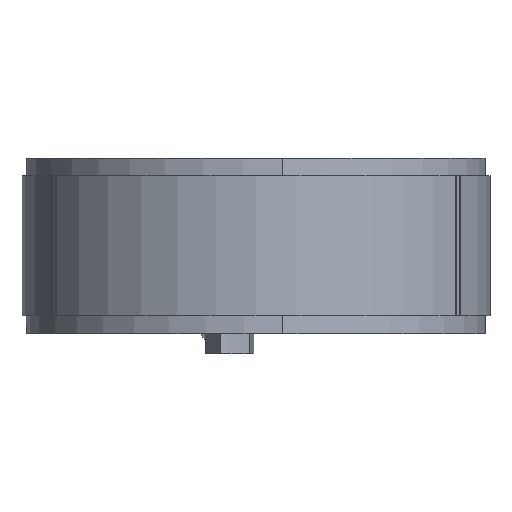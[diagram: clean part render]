
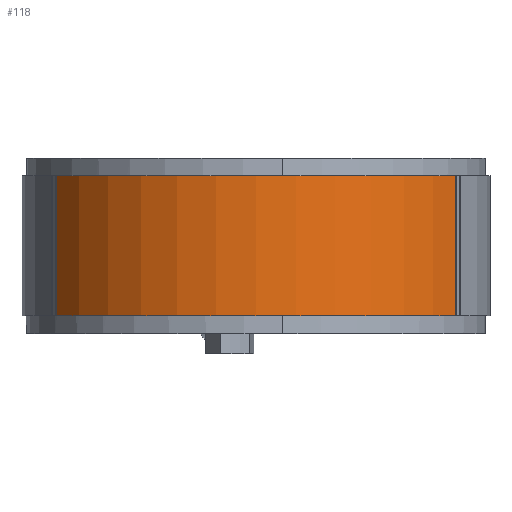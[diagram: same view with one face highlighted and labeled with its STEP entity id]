
A CAD part, front view. The second image highlights one B-rep face of the part: STEP entity #118.
In plain terms, the highlighted cylindrical face has radius 80 mm (diameter 160 mm), a partial arc.
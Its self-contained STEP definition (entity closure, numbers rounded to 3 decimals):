
#118 = ADVANCED_FACE ( 'NONE', ( #2934 ), #567, .T. ) ;
#127 = DIRECTION ( 'NONE',  ( 0., 0., 1. ) ) ;
#256 = ORIENTED_EDGE ( 'NONE', *, *, #1669, .F. ) ;
#371 = ORIENTED_EDGE ( 'NONE', *, *, #645, .T. ) ;
#517 = CARTESIAN_POINT ( 'NONE',  ( -15.414, 73.78, 64.125 ) ) ;
#555 = CIRCLE ( 'NONE', #818, 80. ) ;
#567 = CYLINDRICAL_SURFACE ( 'NONE', #1220, 80. ) ;
#637 = DIRECTION ( 'NONE',  ( 0., 0., 1. ) ) ;
#645 = EDGE_CURVE ( 'NONE', #2745, #3885, #2726, .T. ) ;
#818 = AXIS2_PLACEMENT_3D ( 'NONE', #2212, #637, #2244 ) ;
#957 = DIRECTION ( 'NONE',  ( -1., 0., 0. ) ) ;
#1047 = CARTESIAN_POINT ( 'NONE',  ( 53.093, 32.467, 96.125 ) ) ;
#1107 = DIRECTION ( 'NONE',  ( 0., 0., 1. ) ) ;
#1220 = AXIS2_PLACEMENT_3D ( 'NONE', #517, #3307, #957 ) ;
#1374 = EDGE_LOOP ( 'NONE', ( #4686, #2562, #371, #256 ) ) ;
#1511 = CARTESIAN_POINT ( 'NONE',  ( -15.414, 73.78, 96.125 ) ) ;
#1540 = CARTESIAN_POINT ( 'NONE',  ( -83.921, 32.467, 96.125 ) ) ;
#1544 = CARTESIAN_POINT ( 'NONE',  ( 53.093, 32.467, -135.865 ) ) ;
#1669 = EDGE_CURVE ( 'NONE', #2008, #3885, #555, .T. ) ;
#1766 = EDGE_CURVE ( 'NONE', #2082, #2008, #2930, .T. ) ;
#1918 = CARTESIAN_POINT ( 'NONE',  ( 53.093, 32.467, 144.125 ) ) ;
#2008 = VERTEX_POINT ( 'NONE', #3593 ) ;
#2082 = VERTEX_POINT ( 'NONE', #1540 ) ;
#2212 = CARTESIAN_POINT ( 'NONE',  ( -15.414, 73.78, 144.125 ) ) ;
#2244 = DIRECTION ( 'NONE',  ( 1., 0., 0. ) ) ;
#2562 = ORIENTED_EDGE ( 'NONE', *, *, #2675, .T. ) ;
#2675 = EDGE_CURVE ( 'NONE', #2082, #2745, #3974, .T. ) ;
#2726 = LINE ( 'NONE', #1544, #4752 ) ;
#2745 = VERTEX_POINT ( 'NONE', #1047 ) ;
#2913 = CARTESIAN_POINT ( 'NONE',  ( -83.921, 32.467, -135.865 ) ) ;
#2930 = LINE ( 'NONE', #2913, #3071 ) ;
#2934 = FACE_OUTER_BOUND ( 'NONE', #1374, .T. ) ;
#3071 = VECTOR ( 'NONE', #127, 1000. ) ;
#3307 = DIRECTION ( 'NONE',  ( 0., 0., -1. ) ) ;
#3593 = CARTESIAN_POINT ( 'NONE',  ( -83.921, 32.467, 144.125 ) ) ;
#3885 = VERTEX_POINT ( 'NONE', #1918 ) ;
#3974 = CIRCLE ( 'NONE', #4949, 80. ) ;
#4645 = DIRECTION ( 'NONE',  ( 0., 0., 1. ) ) ;
#4686 = ORIENTED_EDGE ( 'NONE', *, *, #1766, .F. ) ;
#4752 = VECTOR ( 'NONE', #4645, 1000. ) ;
#4793 = DIRECTION ( 'NONE',  ( 1., 0., 0. ) ) ;
#4949 = AXIS2_PLACEMENT_3D ( 'NONE', #1511, #1107, #4793 ) ;
